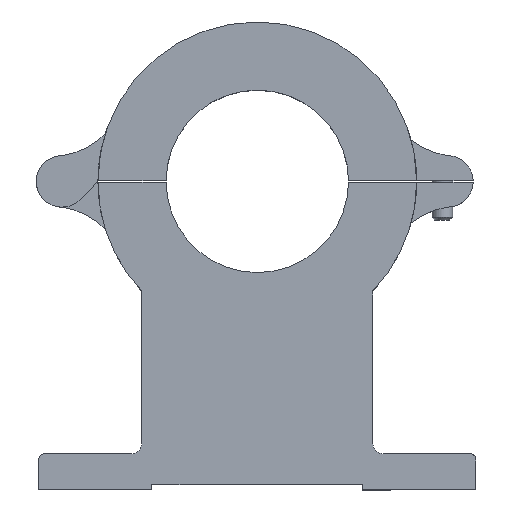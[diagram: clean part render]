
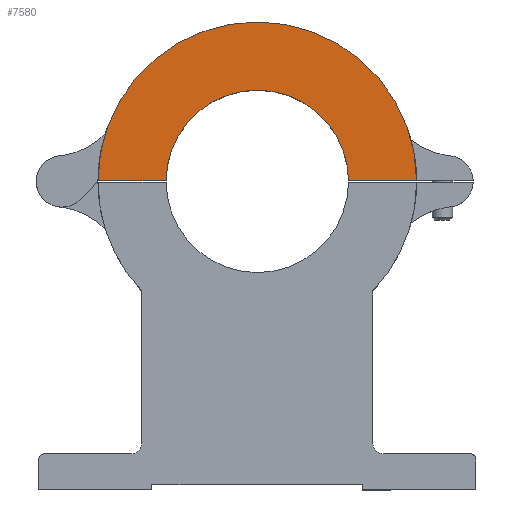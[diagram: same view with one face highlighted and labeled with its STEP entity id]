
A CAD part, top view. The second image highlights one B-rep face of the part: STEP entity #7580.
In plain terms, the highlighted planar face has unit normal (0, 0, 1).
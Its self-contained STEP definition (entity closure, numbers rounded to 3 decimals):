
#1094 = PLANE('',#1095);
#1095 = AXIS2_PLACEMENT_3D('',#1096,#1097,#1098);
#1096 = CARTESIAN_POINT('',(0.,60.125,11.));
#1097 = DIRECTION('',(0.,-1.,0.));
#1098 = DIRECTION('',(0.,0.,-1.));
#4275 = PLANE('',#4276);
#4276 = AXIS2_PLACEMENT_3D('',#4277,#4278,#4279);
#4277 = CARTESIAN_POINT('',(0.,60.125,11.));
#4278 = DIRECTION('',(0.,-1.,0.));
#4279 = DIRECTION('',(0.,0.,-1.));
#5061 = CYLINDRICAL_SURFACE('',#5062,31.);
#5062 = AXIS2_PLACEMENT_3D('',#5063,#5064,#5065);
#5063 = CARTESIAN_POINT('',(0.,60.,0.));
#5064 = DIRECTION('',(0.,0.,1.));
#5065 = DIRECTION('',(1.,0.,-0.));
#5158 = VERTEX_POINT('',#5159);
#5159 = CARTESIAN_POINT('',(31.,60.125,22.));
#5180 = EDGE_CURVE('',#5181,#5158,#5183,.T.);
#5181 = VERTEX_POINT('',#5182);
#5182 = CARTESIAN_POINT('',(17.75,60.125,22.));
#5183 = SURFACE_CURVE('',#5184,(#5188,#5195),.PCURVE_S1.);
#5184 = LINE('',#5185,#5186);
#5185 = CARTESIAN_POINT('',(0.,60.125,22.));
#5186 = VECTOR('',#5187,1.);
#5187 = DIRECTION('',(1.,0.,-0.));
#5188 = PCURVE('',#1094,#5189);
#5189 = DEFINITIONAL_REPRESENTATION('',(#5190),#5194);
#5190 = LINE('',#5191,#5192);
#5191 = CARTESIAN_POINT('',(-11.,0.));
#5192 = VECTOR('',#5193,1.);
#5193 = DIRECTION('',(0.,1.));
#5194 = ( GEOMETRIC_REPRESENTATION_CONTEXT(2) 
PARAMETRIC_REPRESENTATION_CONTEXT() REPRESENTATION_CONTEXT('2D SPACE',''
  ) );
#5195 = PCURVE('',#5196,#5201);
#5196 = PLANE('',#5197);
#5197 = AXIS2_PLACEMENT_3D('',#5198,#5199,#5200);
#5198 = CARTESIAN_POINT('',(0.,33.018,22.));
#5199 = DIRECTION('',(0.,0.,1.));
#5200 = DIRECTION('',(1.,0.,-0.));
#5201 = DEFINITIONAL_REPRESENTATION('',(#5202),#5206);
#5202 = LINE('',#5203,#5204);
#5203 = CARTESIAN_POINT('',(0.,27.107));
#5204 = VECTOR('',#5205,1.);
#5205 = DIRECTION('',(1.,0.));
#5206 = ( GEOMETRIC_REPRESENTATION_CONTEXT(2) 
PARAMETRIC_REPRESENTATION_CONTEXT() REPRESENTATION_CONTEXT('2D SPACE',''
  ) );
#5224 = CYLINDRICAL_SURFACE('',#5225,17.75);
#5225 = AXIS2_PLACEMENT_3D('',#5226,#5227,#5228);
#5226 = CARTESIAN_POINT('',(0.,60.,11.));
#5227 = DIRECTION('',(0.,0.,1.));
#5228 = DIRECTION('',(1.,0.,-0.));
#6985 = VERTEX_POINT('',#6986);
#6986 = CARTESIAN_POINT('',(-31.,60.125,22.));
#7007 = EDGE_CURVE('',#6985,#5158,#7008,.T.);
#7008 = SURFACE_CURVE('',#7009,(#7014,#7021),.PCURVE_S1.);
#7009 = CIRCLE('',#7010,31.);
#7010 = AXIS2_PLACEMENT_3D('',#7011,#7012,#7013);
#7011 = CARTESIAN_POINT('',(0.,60.,22.));
#7012 = DIRECTION('',(0.,0.,-1.));
#7013 = DIRECTION('',(1.,0.,0.));
#7014 = PCURVE('',#5061,#7015);
#7015 = DEFINITIONAL_REPRESENTATION('',(#7016),#7020);
#7016 = LINE('',#7017,#7018);
#7017 = CARTESIAN_POINT('',(6.283,22.));
#7018 = VECTOR('',#7019,1.);
#7019 = DIRECTION('',(-1.,0.));
#7020 = ( GEOMETRIC_REPRESENTATION_CONTEXT(2) 
PARAMETRIC_REPRESENTATION_CONTEXT() REPRESENTATION_CONTEXT('2D SPACE',''
  ) );
#7021 = PCURVE('',#5196,#7022);
#7022 = DEFINITIONAL_REPRESENTATION('',(#7023),#7031);
#7023 = ( BOUNDED_CURVE() B_SPLINE_CURVE(2,(#7024,#7025,#7026,#7027,
#7028,#7029,#7030),.UNSPECIFIED.,.T.,.F.) B_SPLINE_CURVE_WITH_KNOTS((1,2
    ,2,2,2,1),(-2.094,0.,2.094,4.189,
6.283,8.378),.UNSPECIFIED.) CURVE() 
GEOMETRIC_REPRESENTATION_ITEM() RATIONAL_B_SPLINE_CURVE((1.,0.5,1.,0.5,
1.,0.5,1.)) REPRESENTATION_ITEM('') );
#7024 = CARTESIAN_POINT('',(31.,26.982));
#7025 = CARTESIAN_POINT('',(31.,-26.712));
#7026 = CARTESIAN_POINT('',(-15.5,0.135));
#7027 = CARTESIAN_POINT('',(-62.,26.982));
#7028 = CARTESIAN_POINT('',(-15.5,53.829));
#7029 = CARTESIAN_POINT('',(31.,80.675));
#7030 = CARTESIAN_POINT('',(31.,26.982));
#7031 = ( GEOMETRIC_REPRESENTATION_CONTEXT(2) 
PARAMETRIC_REPRESENTATION_CONTEXT() REPRESENTATION_CONTEXT('2D SPACE',''
  ) );
#7530 = EDGE_CURVE('',#7531,#5181,#7533,.T.);
#7531 = VERTEX_POINT('',#7532);
#7532 = CARTESIAN_POINT('',(-17.75,60.125,22.));
#7533 = SURFACE_CURVE('',#7534,(#7539,#7546),.PCURVE_S1.);
#7534 = CIRCLE('',#7535,17.75);
#7535 = AXIS2_PLACEMENT_3D('',#7536,#7537,#7538);
#7536 = CARTESIAN_POINT('',(0.,60.,22.));
#7537 = DIRECTION('',(0.,0.,-1.));
#7538 = DIRECTION('',(1.,0.,0.));
#7539 = PCURVE('',#5224,#7540);
#7540 = DEFINITIONAL_REPRESENTATION('',(#7541),#7545);
#7541 = LINE('',#7542,#7543);
#7542 = CARTESIAN_POINT('',(6.283,11.));
#7543 = VECTOR('',#7544,1.);
#7544 = DIRECTION('',(-1.,0.));
#7545 = ( GEOMETRIC_REPRESENTATION_CONTEXT(2) 
PARAMETRIC_REPRESENTATION_CONTEXT() REPRESENTATION_CONTEXT('2D SPACE',''
  ) );
#7546 = PCURVE('',#5196,#7547);
#7547 = DEFINITIONAL_REPRESENTATION('',(#7548),#7556);
#7548 = ( BOUNDED_CURVE() B_SPLINE_CURVE(2,(#7549,#7550,#7551,#7552,
#7553,#7554,#7555),.UNSPECIFIED.,.T.,.F.) B_SPLINE_CURVE_WITH_KNOTS((1,2
    ,2,2,2,1),(-2.094,0.,2.094,4.189,
6.283,8.378),.UNSPECIFIED.) CURVE() 
GEOMETRIC_REPRESENTATION_ITEM() RATIONAL_B_SPLINE_CURVE((1.,0.5,1.,0.5,
1.,0.5,1.)) REPRESENTATION_ITEM('') );
#7549 = CARTESIAN_POINT('',(17.75,26.982));
#7550 = CARTESIAN_POINT('',(17.75,-3.762));
#7551 = CARTESIAN_POINT('',(-8.875,11.61));
#7552 = CARTESIAN_POINT('',(-35.5,26.982));
#7553 = CARTESIAN_POINT('',(-8.875,42.354));
#7554 = CARTESIAN_POINT('',(17.75,57.726));
#7555 = CARTESIAN_POINT('',(17.75,26.982));
#7556 = ( GEOMETRIC_REPRESENTATION_CONTEXT(2) 
PARAMETRIC_REPRESENTATION_CONTEXT() REPRESENTATION_CONTEXT('2D SPACE',''
  ) );
#7580 = ADVANCED_FACE('',(#7581),#5196,.T.);
#7581 = FACE_BOUND('',#7582,.T.);
#7582 = EDGE_LOOP('',(#7583,#7604,#7605,#7606));
#7583 = ORIENTED_EDGE('',*,*,#7584,.T.);
#7584 = EDGE_CURVE('',#6985,#7531,#7585,.T.);
#7585 = SURFACE_CURVE('',#7586,(#7590,#7597),.PCURVE_S1.);
#7586 = LINE('',#7587,#7588);
#7587 = CARTESIAN_POINT('',(0.,60.125,22.));
#7588 = VECTOR('',#7589,1.);
#7589 = DIRECTION('',(1.,0.,-0.));
#7590 = PCURVE('',#5196,#7591);
#7591 = DEFINITIONAL_REPRESENTATION('',(#7592),#7596);
#7592 = LINE('',#7593,#7594);
#7593 = CARTESIAN_POINT('',(0.,27.107));
#7594 = VECTOR('',#7595,1.);
#7595 = DIRECTION('',(1.,0.));
#7596 = ( GEOMETRIC_REPRESENTATION_CONTEXT(2) 
PARAMETRIC_REPRESENTATION_CONTEXT() REPRESENTATION_CONTEXT('2D SPACE',''
  ) );
#7597 = PCURVE('',#4275,#7598);
#7598 = DEFINITIONAL_REPRESENTATION('',(#7599),#7603);
#7599 = LINE('',#7600,#7601);
#7600 = CARTESIAN_POINT('',(-11.,0.));
#7601 = VECTOR('',#7602,1.);
#7602 = DIRECTION('',(0.,1.));
#7603 = ( GEOMETRIC_REPRESENTATION_CONTEXT(2) 
PARAMETRIC_REPRESENTATION_CONTEXT() REPRESENTATION_CONTEXT('2D SPACE',''
  ) );
#7604 = ORIENTED_EDGE('',*,*,#7530,.T.);
#7605 = ORIENTED_EDGE('',*,*,#5180,.T.);
#7606 = ORIENTED_EDGE('',*,*,#7007,.F.);
